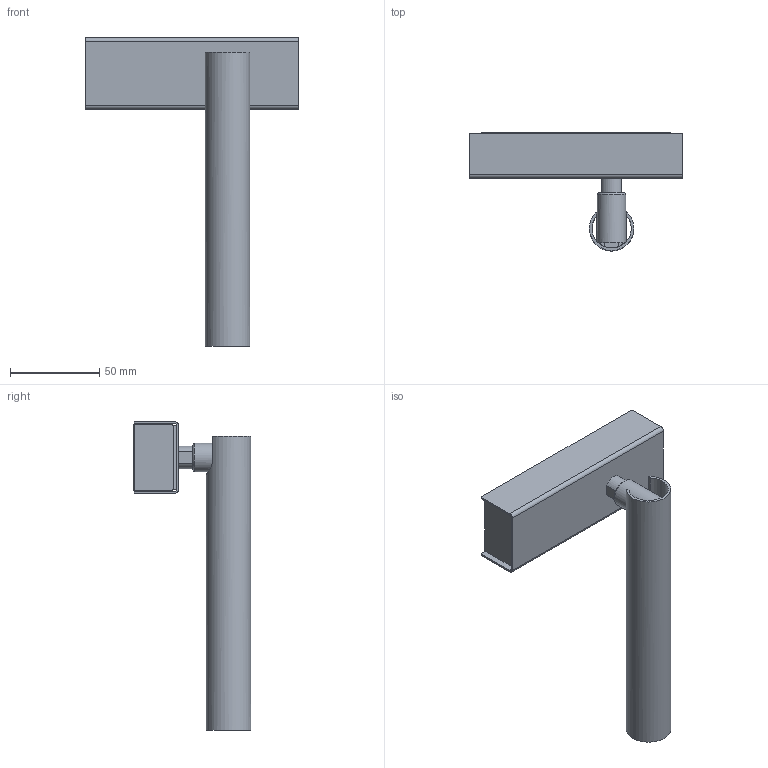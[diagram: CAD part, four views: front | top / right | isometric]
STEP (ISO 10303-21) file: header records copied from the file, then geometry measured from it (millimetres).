
FILE_DESCRIPTION(/* description */ (''),/* implementation_level */ '2;1');
FILE_NAME(/* name */ 'MIRA ENDLESS.stp',/* time_stamp */ '2023-02-17T14:46:16+01:00',/* author */ ('n.bisotti'),/* organization */ (''),/* preprocessor_version */ 'ST-DEVELOPER v19.2',/* originating_system */ 'Autodesk Inventor 2023',/* authorisation */ '');
FILE_SCHEMA (('AUTOMOTIVE_DESIGN { 1 0 10303 214 3 1 1 }'));
Length unit declared in the file: millimetre
Products named in the file (1): Parte4
Bounding box: 120 x 66.1 x 173.05 mm (x, y, z)
Volume: 48529.6 mm3; surface area: 73044.6 mm2
Topology: 8 solids, 8 shells, 196 faces, 480 edges, 298 vertices
Faces by surface type: plane 113, cylinder 73, cone 6, sphere 2, bspline 1, torus 1
Full cylindrical faces by diameter (mm): 2.459 x3, 6.8 x1, 8.917 x1, 10.25 x1, 16 x1, 22 x1, 23 x1, 25 x1
Entity records: 6187 total; most frequent: CARTESIAN_POINT 1182, DIRECTION 1014, ORIENTED_EDGE 956, EDGE_CURVE 478, AXIS2_PLACEMENT_3D 359, VERTEX_POINT 298, LINE 296, VECTOR 296
